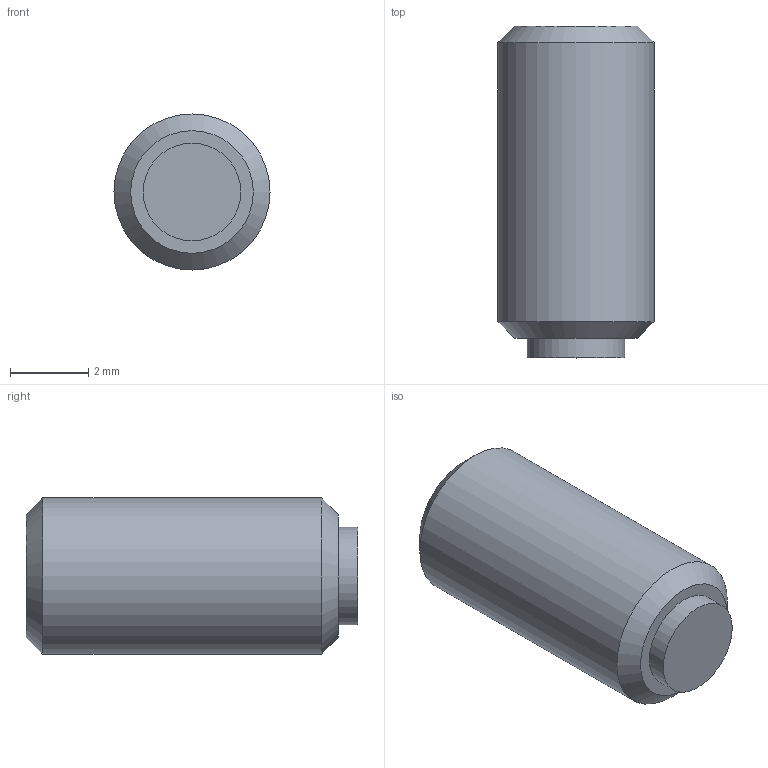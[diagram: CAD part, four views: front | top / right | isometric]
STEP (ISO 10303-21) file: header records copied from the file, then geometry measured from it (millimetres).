
FILE_DESCRIPTION( ( 'STEP AP203' ), '1' );
FILE_NAME( 'C:/Temp/Ganter_Step_05_03_2020/data/3_2/gn913_3/Grub screw GN 913.3-M4-8-MS.stp', '2020-03-13T05:35:45', ( 'License CC BY-ND 4.0' ), ( 'CADENAS' ), ' ', 'PARTsolutions', ' ' );
FILE_SCHEMA( ( 'CONFIG_CONTROL_DESIGN' ) );
Length unit declared in the file: millimetre
Products named in the file (1): _Grub screw GN 913.3-M4-8-MS
Bounding box: 4 x 8.5 x 4 mm (x, y, z)
Volume: 92.2 mm3; surface area: 140.1 mm2
Topology: 1 solids, 1 shells, 14 faces, 28 edges, 18 vertices
Faces by surface type: plane 10, cylinder 2, cone 2
Full cylindrical faces by diameter (mm): 2.5 x1, 4 x1
Entity records: 386 total; most frequent: DIRECTION 60, CARTESIAN_POINT 57, ORIENTED_EDGE 48, EDGE_CURVE 24, AXIS2_PLACEMENT_3D 21, EDGE_LOOP 20, VERTEX_POINT 18, LINE 18
